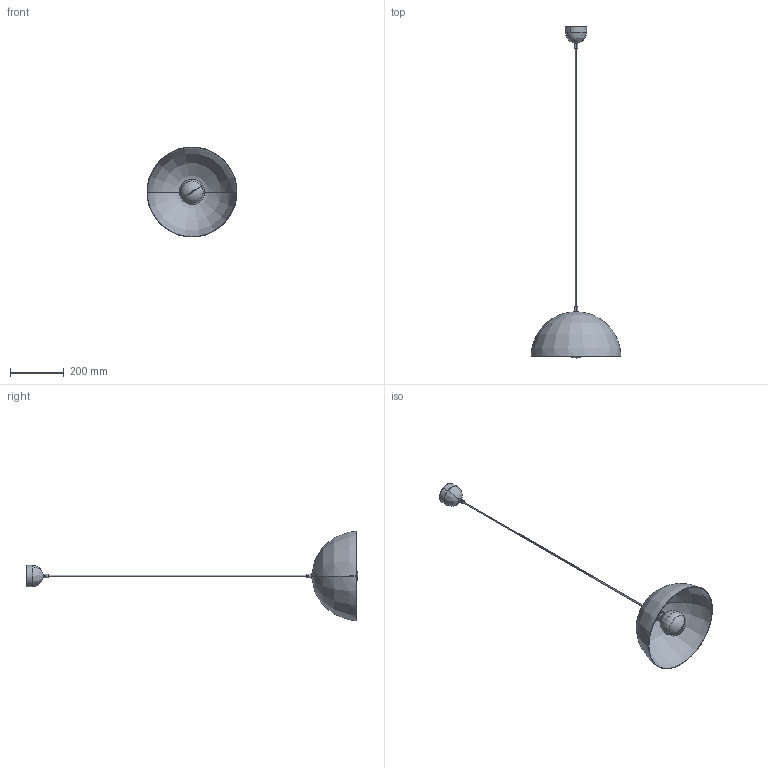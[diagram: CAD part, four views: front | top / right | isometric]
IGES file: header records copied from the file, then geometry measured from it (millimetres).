
Start section: SolidWorks IGES file using analytic representation for surfaces
Global section: file name: E:\3D lampy\Hemisphere\Hemisphere.IGS; native system: SolidWorks 2016; preprocessor: SolidWorks 2016; author: Asia; date: 160927.150617; units: millimetre
Bounding box: 335 x 1236.06 x 335 mm (x, y, z)
Surface area: 466690.4 mm2 (no closed solid volume)
Topology: 0 solids, 0 shells, 163 faces, 2988 edges, 2987 vertices
Faces by surface type: revolution 92, bspline 71
